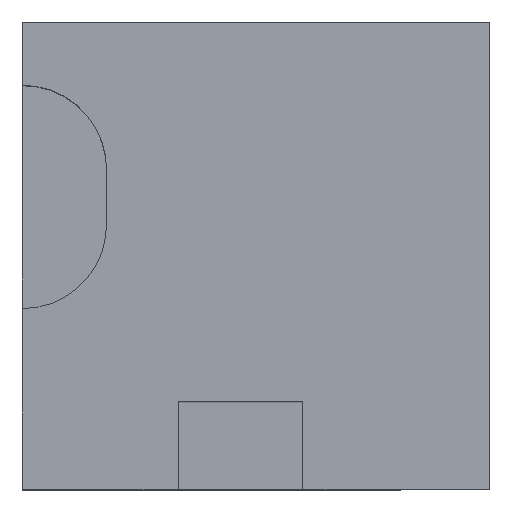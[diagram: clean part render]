
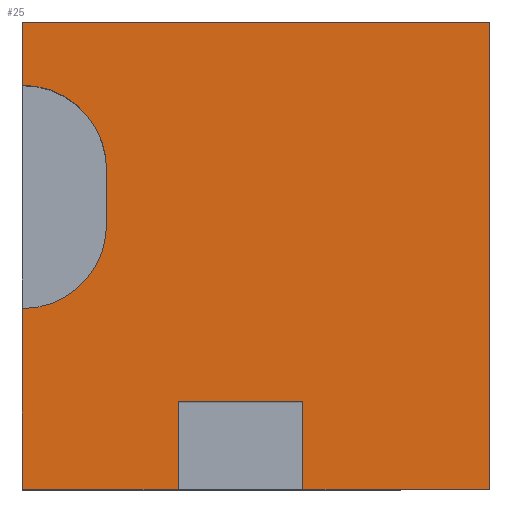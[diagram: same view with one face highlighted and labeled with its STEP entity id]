
A CAD part, top view. The second image highlights one B-rep face of the part: STEP entity #25.
In plain terms, the highlighted planar face has unit normal (0, 0, 1).
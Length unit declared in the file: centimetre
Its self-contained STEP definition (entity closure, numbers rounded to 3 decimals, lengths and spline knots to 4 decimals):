
#1 = ORIENTED_EDGE ( 'NONE', *, *, #77, .F. ) ;
#3 = EDGE_CURVE ( 'NONE', #660, #39, #585, .T. ) ;
#8 = VERTEX_POINT ( 'NONE', #587 ) ;
#21 = ORIENTED_EDGE ( 'NONE', *, *, #3, .F. ) ;
#25 = ADVANCED_FACE ( 'NONE', ( #685 ), #232, .T. ) ;
#28 = DIRECTION ( 'NONE',  ( -1., 0., 0. ) ) ;
#32 = VECTOR ( 'NONE', #358, 100. ) ;
#34 = VECTOR ( 'NONE', #335, 100. ) ;
#39 = VERTEX_POINT ( 'NONE', #352 ) ;
#55 = LINE ( 'NONE', #61, #180 ) ;
#61 = CARTESIAN_POINT ( 'NONE',  ( 0., 0., 1000. ) ) ;
#65 = CARTESIAN_POINT ( 'NONE',  ( 180.198, 684.6046, 1000. ) ) ;
#77 = EDGE_CURVE ( 'NONE', #139, #89, #192, .T. ) ;
#81 = LINE ( 'NONE', #366, #97 ) ;
#89 = VERTEX_POINT ( 'NONE', #565 ) ;
#97 = VECTOR ( 'NONE', #579, 100. ) ;
#104 = VECTOR ( 'NONE', #315, 100. ) ;
#105 = VERTEX_POINT ( 'NONE', #612 ) ;
#112 = AXIS2_PLACEMENT_3D ( 'NONE', #349, #134, #28 ) ;
#113 = ORIENTED_EDGE ( 'NONE', *, *, #433, .T. ) ;
#131 = CARTESIAN_POINT ( 'NONE',  ( 333.4913, 0., 1000. ) ) ;
#134 = DIRECTION ( 'NONE',  ( 0., 0., 1. ) ) ;
#139 = VERTEX_POINT ( 'NONE', #677 ) ;
#142 = CARTESIAN_POINT ( 'NONE',  ( 180.198, 684.6046, 1000. ) ) ;
#145 = LINE ( 'NONE', #488, #104 ) ;
#146 = VECTOR ( 'NONE', #233, 100. ) ;
#153 = LINE ( 'NONE', #325, #692 ) ;
#155 = CIRCLE ( 'NONE', #112, 180.198 ) ;
#156 = VECTOR ( 'NONE', #292, 100. ) ;
#160 = EDGE_CURVE ( 'NONE', #369, #105, #626, .T. ) ;
#162 = ORIENTED_EDGE ( 'NONE', *, *, #265, .F. ) ;
#180 = VECTOR ( 'NONE', #664, 100. ) ;
#182 = CARTESIAN_POINT ( 'NONE',  ( 1000., 1000., 1000. ) ) ;
#183 = VERTEX_POINT ( 'NONE', #298 ) ;
#192 = CIRCLE ( 'NONE', #407, 180.198 ) ;
#198 = CARTESIAN_POINT ( 'NONE',  ( 333.4913, 186.9942, 1000. ) ) ;
#210 = ORIENTED_EDGE ( 'NONE', *, *, #536, .T. ) ;
#226 = ORIENTED_EDGE ( 'NONE', *, *, #638, .F. ) ;
#232 = PLANE ( 'NONE',  #452 ) ;
#233 = DIRECTION ( 'NONE',  ( 0., 1., 0. ) ) ;
#235 = VECTOR ( 'NONE', #576, 100. ) ;
#239 = DIRECTION ( 'NONE',  ( 1., 0., 0. ) ) ;
#248 = VERTEX_POINT ( 'NONE', #678 ) ;
#265 = EDGE_CURVE ( 'NONE', #351, #183, #155, .T. ) ;
#282 = CARTESIAN_POINT ( 'NONE',  ( 600.3762, 0., 1000. ) ) ;
#283 = ORIENTED_EDGE ( 'NONE', *, *, #322, .T. ) ;
#292 = DIRECTION ( 'NONE',  ( 0., 1., 0. ) ) ;
#298 = CARTESIAN_POINT ( 'NONE',  ( 0., 864.8026, 1000. ) ) ;
#303 = ORIENTED_EDGE ( 'NONE', *, *, #689, .T. ) ;
#311 = EDGE_CURVE ( 'NONE', #89, #351, #562, .T. ) ;
#315 = DIRECTION ( 'NONE',  ( -1., 0., 0. ) ) ;
#322 = EDGE_CURVE ( 'NONE', #519, #8, #624, .T. ) ;
#325 = CARTESIAN_POINT ( 'NONE',  ( 0., 1000., 1000. ) ) ;
#331 = LINE ( 'NONE', #551, #34 ) ;
#335 = DIRECTION ( 'NONE',  ( -1., 0., 0. ) ) ;
#349 = CARTESIAN_POINT ( 'NONE',  ( 0., 684.6046, 1000. ) ) ;
#351 = VERTEX_POINT ( 'NONE', #142 ) ;
#352 = CARTESIAN_POINT ( 'NONE',  ( 600.3762, 186.9942, 1000. ) ) ;
#358 = DIRECTION ( 'NONE',  ( 0., 1., 0. ) ) ;
#365 = CARTESIAN_POINT ( 'NONE',  ( 600.3762, 0., 1000. ) ) ;
#366 = CARTESIAN_POINT ( 'NONE',  ( 0., 1000., 1000. ) ) ;
#367 = CARTESIAN_POINT ( 'NONE',  ( 1000., 0., 1000. ) ) ;
#369 = VERTEX_POINT ( 'NONE', #198 ) ;
#377 = EDGE_CURVE ( 'NONE', #139, #666, #81, .T. ) ;
#378 = VECTOR ( 'NONE', #434, 100. ) ;
#391 = DIRECTION ( 'NONE',  ( 0., 0., 1. ) ) ;
#407 = AXIS2_PLACEMENT_3D ( 'NONE', #522, #391, #239 ) ;
#411 = CARTESIAN_POINT ( 'NONE',  ( 0., 0., 1000. ) ) ;
#431 = DIRECTION ( 'NONE',  ( 0., -1., 0. ) ) ;
#433 = EDGE_CURVE ( 'NONE', #8, #248, #145, .T. ) ;
#434 = DIRECTION ( 'NONE',  ( 1., 0., 0. ) ) ;
#442 = ORIENTED_EDGE ( 'NONE', *, *, #311, .F. ) ;
#448 = ORIENTED_EDGE ( 'NONE', *, *, #377, .T. ) ;
#450 = DIRECTION ( 'NONE',  ( 0., 0., 1. ) ) ;
#452 = AXIS2_PLACEMENT_3D ( 'NONE', #411, #450, #669 ) ;
#473 = ORIENTED_EDGE ( 'NONE', *, *, #160, .F. ) ;
#488 = CARTESIAN_POINT ( 'NONE',  ( 0., 1000., 1000. ) ) ;
#501 = EDGE_CURVE ( 'NONE', #248, #183, #153, .T. ) ;
#519 = VERTEX_POINT ( 'NONE', #367 ) ;
#522 = CARTESIAN_POINT ( 'NONE',  ( 0., 566.9768, 1000. ) ) ;
#536 = EDGE_CURVE ( 'NONE', #666, #105, #546, .T. ) ;
#546 = LINE ( 'NONE', #595, #378 ) ;
#548 = CARTESIAN_POINT ( 'NONE',  ( 0., 0., 1000. ) ) ;
#551 = CARTESIAN_POINT ( 'NONE',  ( 333.4913, 186.9942, 1000. ) ) ;
#562 = LINE ( 'NONE', #65, #146 ) ;
#565 = CARTESIAN_POINT ( 'NONE',  ( 180.198, 566.9768, 1000. ) ) ;
#576 = DIRECTION ( 'NONE',  ( 0., -1., 0. ) ) ;
#579 = DIRECTION ( 'NONE',  ( 0., -1., 0. ) ) ;
#585 = LINE ( 'NONE', #365, #32 ) ;
#587 = CARTESIAN_POINT ( 'NONE',  ( 1000., 1000., 1000. ) ) ;
#595 = CARTESIAN_POINT ( 'NONE',  ( 0., 0., 1000. ) ) ;
#612 = CARTESIAN_POINT ( 'NONE',  ( 333.4913, 0., 1000. ) ) ;
#624 = LINE ( 'NONE', #182, #156 ) ;
#626 = LINE ( 'NONE', #131, #235 ) ;
#638 = EDGE_CURVE ( 'NONE', #39, #369, #331, .T. ) ;
#660 = VERTEX_POINT ( 'NONE', #282 ) ;
#664 = DIRECTION ( 'NONE',  ( 1., 0., 0. ) ) ;
#666 = VERTEX_POINT ( 'NONE', #548 ) ;
#669 = DIRECTION ( 'NONE',  ( 1., 0., 0. ) ) ;
#673 = EDGE_LOOP ( 'NONE', ( #1, #448, #210, #473, #226, #21, #303, #283, #113, #688, #162, #442 ) ) ;
#677 = CARTESIAN_POINT ( 'NONE',  ( 0., 386.7788, 1000. ) ) ;
#678 = CARTESIAN_POINT ( 'NONE',  ( 0., 1000., 1000. ) ) ;
#685 = FACE_OUTER_BOUND ( 'NONE', #673, .T. ) ;
#688 = ORIENTED_EDGE ( 'NONE', *, *, #501, .T. ) ;
#689 = EDGE_CURVE ( 'NONE', #660, #519, #55, .T. ) ;
#692 = VECTOR ( 'NONE', #431, 100. ) ;
